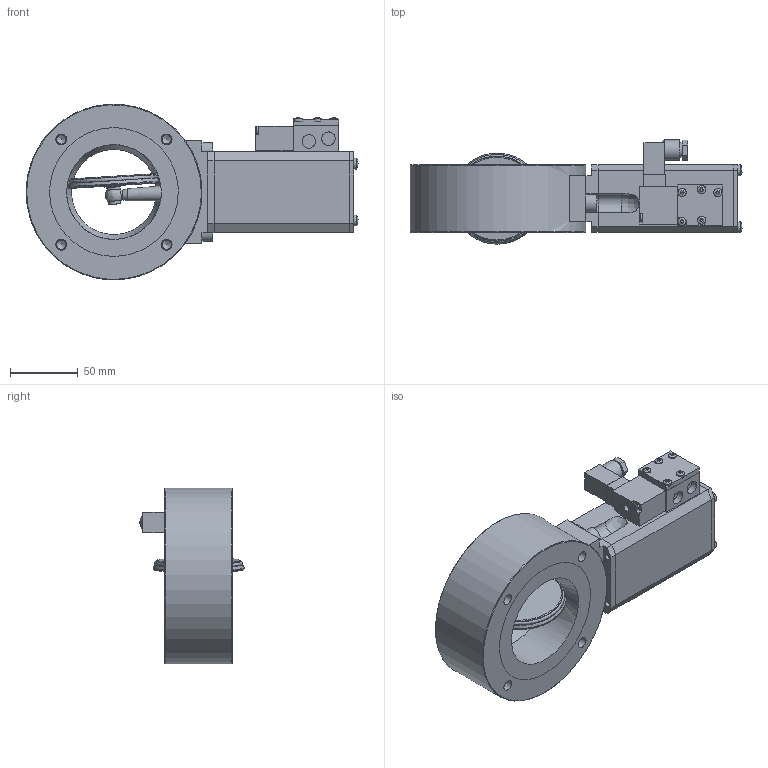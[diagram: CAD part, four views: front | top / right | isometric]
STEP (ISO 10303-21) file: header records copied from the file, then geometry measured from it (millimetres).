
FILE_DESCRIPTION((''),'2;1');
FILE_NAME('O:\MT\MT\Systeme\Cad\Datenexporte\www_vat_ch\251531.stp','2004-06-17T14:28:44',('User'),('SDRC'),'I-DEAS Master Series 9','UNIX','Yes');
FILE_SCHEMA(('CONFIG_CONTROL_DESIGN'));
Length unit declared in the file: millimetre
Assembly tree (35 placements, depth 0):
Bounding box: 245.32 x 76.94 x 129.69 mm (x, y, z)
Volume: 733642.1 mm3; surface area: 166348.1 mm2
Topology: 39 solids, 39 shells, 894 faces, 2094 edges, 1368 vertices
Faces by surface type: bspline 894
Entity records: 24955 total; most frequent: CARTESIAN_POINT 12283, ORIENTED_EDGE 2976, EDGE_CURVE 1488, VERTEX_POINT 982, EDGE_LOOP 852, FACE_OUTER_BOUND 659, ADVANCED_FACE 659, QUASI_UNIFORM_CURVE 644
